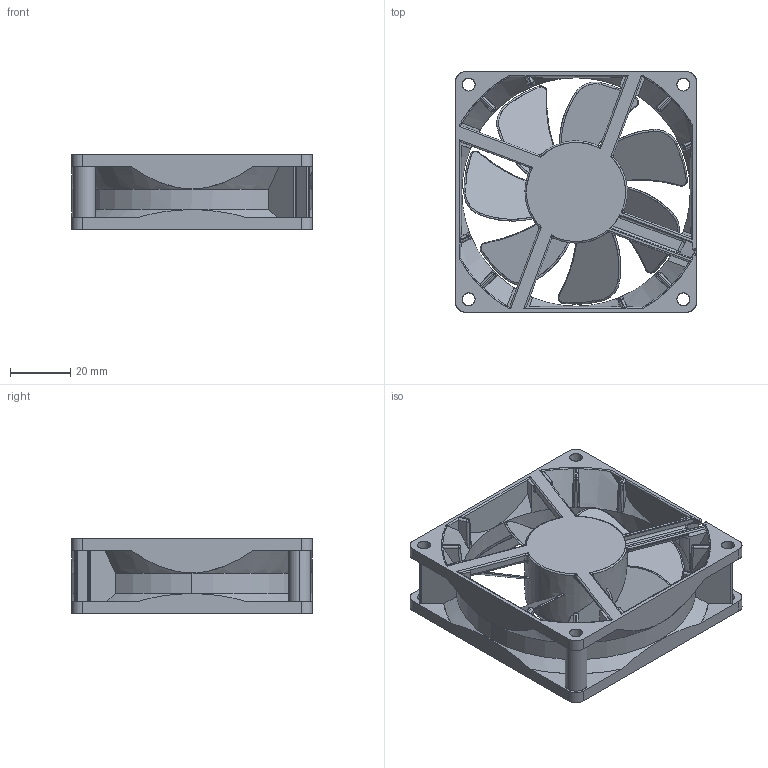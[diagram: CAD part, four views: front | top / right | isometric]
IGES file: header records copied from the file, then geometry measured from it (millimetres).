
Start section: SolidWorks IGES file using analytic representation for surfaces
Global section: file name: 46HT:\03_顧客対応\提出用3Dデータ（フレーム・フィンガーガード）\◆データ公開資料\01_公開用3Dデータ\FAN\80角25厚Sタイプ\リブ付き\80X25S_RIBBED_修正.IGS; native system: SolidWorks 2019; preprocessor: SolidWorks 2019; author: Kurashima-Chizu; date: 220818.120432; units: millimetre
Bounding box: 80.2 x 80.2 x 25.2 mm (x, y, z)
Surface area: 37924.7 mm2 (no closed solid volume)
Topology: 0 solids, 0 shells, 839 faces, 7786 edges, 7774 vertices
Faces by surface type: bspline 468, revolution 371
